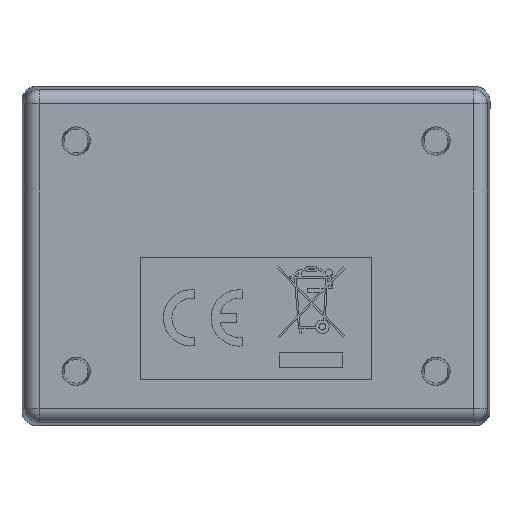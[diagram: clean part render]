
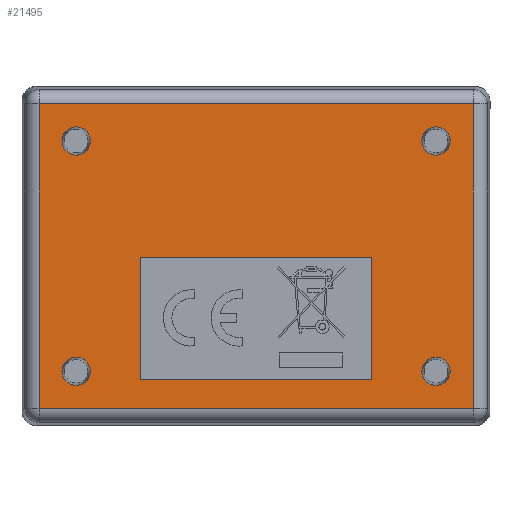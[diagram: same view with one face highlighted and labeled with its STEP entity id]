
A CAD part, front view. The second image highlights one B-rep face of the part: STEP entity #21495.
In plain terms, the highlighted planar face has unit normal (0, -1, 0) as drawn and (0, 0, -1) by its records, which use the part's own axes.
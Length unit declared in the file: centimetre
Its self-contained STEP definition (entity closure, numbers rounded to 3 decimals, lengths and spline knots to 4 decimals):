
#8663=CIRCLE('',#22293,0.1249);
#8664=CIRCLE('',#22294,0.1249);
#8665=CIRCLE('',#22295,0.1249);
#8666=CIRCLE('',#22296,0.1249);
#9396=VECTOR('',#24065,1.);
#9399=VECTOR('',#24069,1.);
#9402=VECTOR('',#24073,1.);
#9405=VECTOR('',#24077,1.);
#9566=VECTOR('',#24310,1.);
#9567=VECTOR('',#24311,1.);
#9568=VECTOR('',#24312,1.);
#9569=VECTOR('',#24313,1.);
#10954=LINE('',#28026,#9396);
#10957=LINE('',#28032,#9399);
#10960=LINE('',#28038,#9402);
#10963=LINE('',#28043,#9405);
#11124=LINE('',#29118,#9566);
#11125=LINE('',#29121,#9567);
#11126=LINE('',#29123,#9568);
#11127=LINE('',#29125,#9569);
#12421=VERTEX_POINT('',#28025);
#12422=VERTEX_POINT('',#28027);
#12424=VERTEX_POINT('',#28033);
#12426=VERTEX_POINT('',#28039);
#12547=VERTEX_POINT('',#29111);
#12548=VERTEX_POINT('',#29113);
#12549=VERTEX_POINT('',#29115);
#12550=VERTEX_POINT('',#29117);
#12551=VERTEX_POINT('',#29119);
#12552=VERTEX_POINT('',#29120);
#12553=VERTEX_POINT('',#29122);
#12554=VERTEX_POINT('',#29124);
#14038=EDGE_CURVE('',#12422,#12421,#10954,.F.);
#14041=EDGE_CURVE('',#12424,#12422,#10957,.F.);
#14044=EDGE_CURVE('',#12426,#12424,#10960,.F.);
#14047=EDGE_CURVE('',#12421,#12426,#10963,.F.);
#14228=EDGE_CURVE('',#12547,#12547,#8663,.F.);
#14229=EDGE_CURVE('',#12548,#12548,#8664,.F.);
#14230=EDGE_CURVE('',#12549,#12549,#8665,.F.);
#14231=EDGE_CURVE('',#12550,#12550,#8666,.F.);
#14232=EDGE_CURVE('',#12551,#12552,#11124,.T.);
#14233=EDGE_CURVE('',#12553,#12551,#11125,.T.);
#14234=EDGE_CURVE('',#12554,#12553,#11126,.T.);
#14235=EDGE_CURVE('',#12552,#12554,#11127,.T.);
#17073=ORIENTED_EDGE('',*,*,#14228,.T.);
#17074=ORIENTED_EDGE('',*,*,#14229,.T.);
#17075=ORIENTED_EDGE('',*,*,#14230,.T.);
#17076=ORIENTED_EDGE('',*,*,#14231,.T.);
#17077=ORIENTED_EDGE('',*,*,#14232,.F.);
#17078=ORIENTED_EDGE('',*,*,#14233,.F.);
#17079=ORIENTED_EDGE('',*,*,#14234,.F.);
#17080=ORIENTED_EDGE('',*,*,#14235,.F.);
#17081=ORIENTED_EDGE('',*,*,#14038,.T.);
#17082=ORIENTED_EDGE('',*,*,#14047,.T.);
#17083=ORIENTED_EDGE('',*,*,#14044,.T.);
#17084=ORIENTED_EDGE('',*,*,#14041,.T.);
#19795=EDGE_LOOP('',(#17073));
#19796=EDGE_LOOP('',(#17074));
#19797=EDGE_LOOP('',(#17075));
#19798=EDGE_LOOP('',(#17076));
#19799=EDGE_LOOP('',(#17077,#17078,#17079,#17080));
#19800=EDGE_LOOP('',(#17081,#17082,#17083,#17084));
#20656=FACE_BOUND('',#19795,.T.);
#20657=FACE_BOUND('',#19796,.T.);
#20658=FACE_BOUND('',#19797,.T.);
#20659=FACE_BOUND('',#19798,.T.);
#20660=FACE_BOUND('',#19799,.T.);
#20661=FACE_BOUND('',#19800,.T.);
#21495=ADVANCED_FACE('',(#20656,#20657,#20658,#20659,#20660,#20661),#33146,
 .F.);
#22292=AXIS2_PLACEMENT_3D('',#29109,#24301,$);
#22293=AXIS2_PLACEMENT_3D('',#29110,#24302,#24303);
#22294=AXIS2_PLACEMENT_3D('',#29112,#24304,#24305);
#22295=AXIS2_PLACEMENT_3D('',#29114,#24306,#24307);
#22296=AXIS2_PLACEMENT_3D('',#29116,#24308,#24309);
#24065=DIRECTION('',(-1.,0.,0.));
#24069=DIRECTION('',(0.,1.,0.));
#24073=DIRECTION('',(1.,0.,0.));
#24077=DIRECTION('',(0.,-1.,0.));
#24301=DIRECTION('',(0.,0.,1.));
#24302=DIRECTION('',(0.,0.,-1.));
#24303=DIRECTION('',(-0.125,0.,0.));
#24304=DIRECTION('',(0.,0.,-1.));
#24305=DIRECTION('',(-0.125,0.,0.));
#24306=DIRECTION('',(0.,0.,-1.));
#24307=DIRECTION('',(-0.125,0.,0.));
#24308=DIRECTION('',(0.,0.,-1.));
#24309=DIRECTION('',(-0.125,0.,0.));
#24310=DIRECTION('',(-1.,0.,0.));
#24311=DIRECTION('',(0.,1.,0.));
#24312=DIRECTION('',(1.,0.,0.));
#24313=DIRECTION('',(0.,-1.,0.));
#28025=CARTESIAN_POINT('',(1.091,-1.0176,-0.0032));
#28026=CARTESIAN_POINT('',(0.1374,-1.0176,-0.0032));
#28027=CARTESIAN_POINT('',(0.0083,-1.0176,-0.0032));
#28032=CARTESIAN_POINT('',(0.0083,0.,-0.0032));
#28033=CARTESIAN_POINT('',(0.0083,1.0176,-0.0032));
#28038=CARTESIAN_POINT('',(0.1374,1.0176,-0.0032));
#28039=CARTESIAN_POINT('',(1.091,1.0176,-0.0032));
#28043=CARTESIAN_POINT('',(1.091,0.,-0.0032));
#29109=CARTESIAN_POINT('',(0.,0.,-0.0032));
#29110=CARTESIAN_POINT('',(1.016,1.5875,-0.0032));
#29111=CARTESIAN_POINT('',(1.1409,1.5875,-0.0032));
#29112=CARTESIAN_POINT('',(1.016,-1.5875,-0.0032));
#29113=CARTESIAN_POINT('',(1.1409,-1.5875,-0.0032));
#29114=CARTESIAN_POINT('',(-1.016,-1.5875,-0.0032));
#29115=CARTESIAN_POINT('',(-0.8911,-1.5875,-0.0032));
#29116=CARTESIAN_POINT('',(-1.016,1.5875,-0.0032));
#29117=CARTESIAN_POINT('',(-0.8911,1.5875,-0.0032));
#29118=CARTESIAN_POINT('',(0.,1.9149,-0.0032));
#29119=CARTESIAN_POINT('',(1.3434,1.9149,-0.0032));
#29120=CARTESIAN_POINT('',(-1.3434,1.9149,-0.0032));
#29121=CARTESIAN_POINT('',(1.3434,0.,-0.0032));
#29122=CARTESIAN_POINT('',(1.3434,-1.9149,-0.0032));
#29123=CARTESIAN_POINT('',(0.,-1.9149,-0.0032));
#29124=CARTESIAN_POINT('',(-1.3434,-1.9149,-0.0032));
#29125=CARTESIAN_POINT('',(-1.3434,0.,-0.0032));
#33146=PLANE('',#22292);
